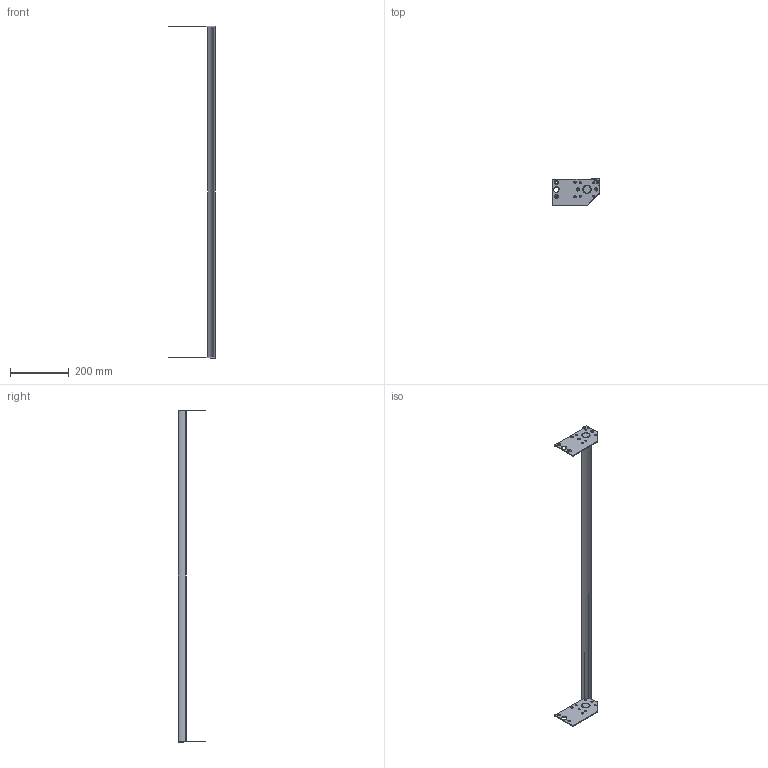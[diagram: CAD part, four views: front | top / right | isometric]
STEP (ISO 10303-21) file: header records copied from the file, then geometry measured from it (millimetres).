
FILE_DESCRIPTION((''),'2;1');
FILE_NAME('27M3300-48_ASM','2020-06-27T',('james.horst'),(''),'PRO/ENGINEER BY PARAMETRIC TECHNOLOGY CORPORATION, 2012420','PRO/ENGINEER BY PARAMETRIC TECHNOLOGY CORPORATION, 2012420','');
FILE_SCHEMA(('CONFIG_CONTROL_DESIGN'));
Length unit declared in the file: inch
Products named in the file (7): 350540_1; 930410M_1; 350539-44; 350541_1; 27M3300-10_ASM_1_ASM_1_ASM; 27M3300-30_ASM_1_ASM; 27M3300-48_ASM
Assembly tree (9 placements, depth 4):
  27M3300-48_ASM
    27M3300-30_ASM_1_ASM
      27M3300-10_ASM_1_ASM_1_ASM
        350540_1
        930410M_1  x4
        350539-44
        350541_1
Bounding box: 157.96 x 92.74 x 1129.94 mm (x, y, z)
Volume: 395109.8 mm3; surface area: 180317.7 mm2
Topology: 7 solids, 7 shells, 195 faces, 527 edges, 346 vertices
Faces by surface type: cylinder 89, plane 66, cone 40
Entity records: 5204 total; most frequent: DIRECTION 951, CARTESIAN_POINT 886, ORIENTED_EDGE 826, EDGE_CURVE 413, AXIS2_PLACEMENT_3D 376, VERTEX_POINT 274, CIRCLE 208, EDGE_LOOP 205
